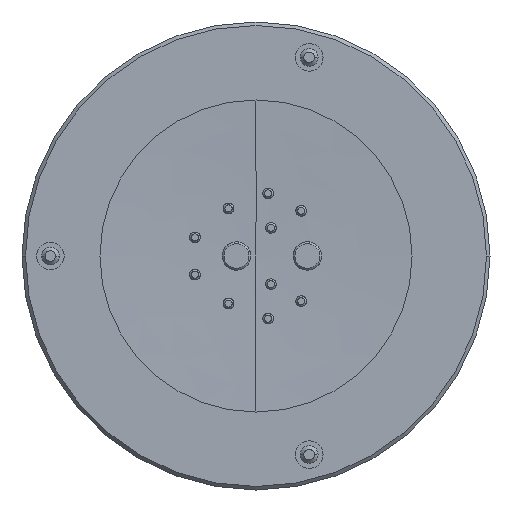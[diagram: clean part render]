
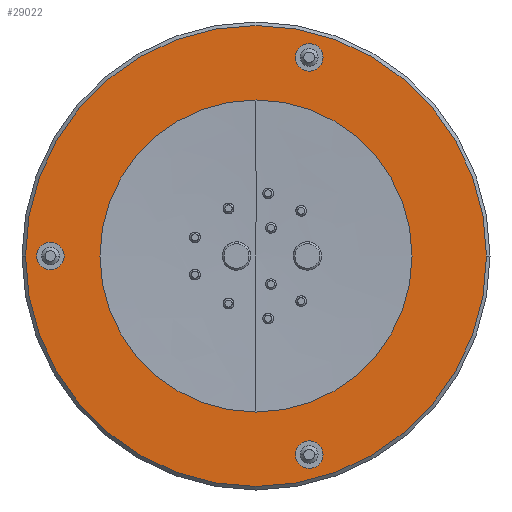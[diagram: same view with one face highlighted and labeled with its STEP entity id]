
A CAD part, left-side view. The second image highlights one B-rep face of the part: STEP entity #29022.
In plain terms, the highlighted planar face has unit normal (-1, 0, 0).
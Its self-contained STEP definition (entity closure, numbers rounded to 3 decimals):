
#6840=CARTESIAN_POINT('',(-12.5,0.,0.));
#6841=DIRECTION('',(1.,0.,0.));
#6842=DIRECTION('',(0.,1.,0.));
#6843=AXIS2_PLACEMENT_3D('',#6840,#6841,#6842);
#6845=CARTESIAN_POINT('',(-12.5,0.,0.));
#6846=DIRECTION('',(1.,0.,0.));
#6847=DIRECTION('',(0.,0.,1.));
#6848=AXIS2_PLACEMENT_3D('',#6845,#6846,#6847);
#6850=CARTESIAN_POINT('',(-12.5,0.,0.));
#6851=DIRECTION('',(1.,0.,0.));
#6852=DIRECTION('',(0.,-1.,0.));
#6853=AXIS2_PLACEMENT_3D('',#6850,#6851,#6852);
#6855=CARTESIAN_POINT('',(-12.5,0.,0.));
#6856=DIRECTION('',(1.,0.,0.));
#6857=DIRECTION('',(0.,0.,-1.));
#6858=AXIS2_PLACEMENT_3D('',#6855,#6856,#6857);
#6860=CARTESIAN_POINT('',(-12.5,-1.501,5.602));
#6861=DIRECTION('',(-1.,0.,0.));
#6862=DIRECTION('',(0.,-1.,0.));
#6863=AXIS2_PLACEMENT_3D('',#6860,#6861,#6862);
#6865=CARTESIAN_POINT('',(-12.5,-1.501,5.602));
#6866=DIRECTION('',(-1.,0.,0.));
#6867=DIRECTION('',(0.,1.,0.));
#6868=AXIS2_PLACEMENT_3D('',#6865,#6866,#6867);
#6870=CARTESIAN_POINT('',(-12.5,-1.501,-5.602));
#6871=DIRECTION('',(-1.,0.,0.));
#6872=DIRECTION('',(0.,-1.,0.));
#6873=AXIS2_PLACEMENT_3D('',#6870,#6871,#6872);
#6875=CARTESIAN_POINT('',(-12.5,-1.501,-5.602));
#6876=DIRECTION('',(-1.,0.,0.));
#6877=DIRECTION('',(0.,1.,0.));
#6878=AXIS2_PLACEMENT_3D('',#6875,#6876,#6877);
#6880=CARTESIAN_POINT('',(-12.5,5.8,0.));
#6881=DIRECTION('',(-1.,0.,0.));
#6882=DIRECTION('',(0.,-1.,0.));
#6883=AXIS2_PLACEMENT_3D('',#6880,#6881,#6882);
#6885=CARTESIAN_POINT('',(-12.5,5.8,0.));
#6886=DIRECTION('',(-1.,0.,0.));
#6887=DIRECTION('',(0.,1.,0.));
#6888=AXIS2_PLACEMENT_3D('',#6885,#6886,#6887);
#6890=CARTESIAN_POINT('',(-12.5,0.,0.));
#6891=DIRECTION('',(-1.,0.,0.));
#6892=DIRECTION('',(0.,-1.,0.));
#6893=AXIS2_PLACEMENT_3D('',#6890,#6891,#6892);
#6895=CARTESIAN_POINT('',(-12.5,0.,0.));
#6896=DIRECTION('',(-1.,0.,0.));
#6897=DIRECTION('',(0.,1.,0.));
#6898=AXIS2_PLACEMENT_3D('',#6895,#6896,#6897);
#10828=CARTESIAN_POINT('',(-12.5,0.,6.5));
#10829=CARTESIAN_POINT('',(-12.5,-6.5,0.));
#10830=VERTEX_POINT('',#10828);
#10831=VERTEX_POINT('',#10829);
#10832=CARTESIAN_POINT('',(-12.5,6.5,0.));
#10833=VERTEX_POINT('',#10832);
#10834=CARTESIAN_POINT('',(-12.5,0.,-6.5));
#10835=VERTEX_POINT('',#10834);
#10836=CARTESIAN_POINT('',(-12.5,-1.891,5.602));
#10837=CARTESIAN_POINT('',(-12.5,-1.111,5.602));
#10838=VERTEX_POINT('',#10836);
#10839=VERTEX_POINT('',#10837);
#10840=CARTESIAN_POINT('',(-12.5,-1.891,-5.602));
#10841=CARTESIAN_POINT('',(-12.5,-1.111,-5.602));
#10842=VERTEX_POINT('',#10840);
#10843=VERTEX_POINT('',#10841);
#10844=CARTESIAN_POINT('',(-12.5,5.41,0.));
#10845=CARTESIAN_POINT('',(-12.5,6.19,0.));
#10846=VERTEX_POINT('',#10844);
#10847=VERTEX_POINT('',#10845);
#10848=CARTESIAN_POINT('',(-12.5,-4.4,0.));
#10849=CARTESIAN_POINT('',(-12.5,4.4,0.));
#10850=VERTEX_POINT('',#10848);
#10851=VERTEX_POINT('',#10849);
#28985=CARTESIAN_POINT('',(-12.5,0.,0.));
#28986=DIRECTION('',(1.,0.,0.));
#28987=DIRECTION('',(0.,-1.,0.));
#28988=AXIS2_PLACEMENT_3D('',#28985,#28986,#28987);
#28989=PLANE('',#28988);
#28990=ORIENTED_EDGE('',*,*,#28967,.T.);
#28991=ORIENTED_EDGE('',*,*,#28965,.T.);
#28993=ORIENTED_EDGE('',*,*,#28992,.T.);
#28995=ORIENTED_EDGE('',*,*,#28994,.T.);
#28996=EDGE_LOOP('',(#28990,#28991,#28993,#28995));
#28997=FACE_OUTER_BOUND('',#28996,.F.);
#28999=ORIENTED_EDGE('',*,*,#28998,.T.);
#29001=ORIENTED_EDGE('',*,*,#29000,.T.);
#29002=EDGE_LOOP('',(#28999,#29001));
#29003=FACE_BOUND('',#29002,.F.);
#29005=ORIENTED_EDGE('',*,*,#29004,.T.);
#29007=ORIENTED_EDGE('',*,*,#29006,.T.);
#29008=EDGE_LOOP('',(#29005,#29007));
#29009=FACE_BOUND('',#29008,.F.);
#29011=ORIENTED_EDGE('',*,*,#29010,.T.);
#29013=ORIENTED_EDGE('',*,*,#29012,.T.);
#29014=EDGE_LOOP('',(#29011,#29013));
#29015=FACE_BOUND('',#29014,.F.);
#29017=ORIENTED_EDGE('',*,*,#29016,.T.);
#29019=ORIENTED_EDGE('',*,*,#29018,.T.);
#29020=EDGE_LOOP('',(#29017,#29019));
#29021=FACE_BOUND('',#29020,.F.);
#6844=CIRCLE('',#6843,6.5);
#6849=CIRCLE('',#6848,6.5);
#6854=CIRCLE('',#6853,6.5);
#6859=CIRCLE('',#6858,6.5);
#6864=CIRCLE('',#6863,0.39);
#6869=CIRCLE('',#6868,0.39);
#6874=CIRCLE('',#6873,0.39);
#6879=CIRCLE('',#6878,0.39);
#6884=CIRCLE('',#6883,0.39);
#6889=CIRCLE('',#6888,0.39);
#6894=CIRCLE('',#6893,4.4);
#6899=CIRCLE('',#6898,4.4);
#28965=EDGE_CURVE('',#10830,#10831,#6849,.T.);
#28967=EDGE_CURVE('',#10833,#10830,#6844,.T.);
#28992=EDGE_CURVE('',#10831,#10835,#6854,.T.);
#28994=EDGE_CURVE('',#10835,#10833,#6859,.T.);
#28998=EDGE_CURVE('',#10838,#10839,#6864,.T.);
#29000=EDGE_CURVE('',#10839,#10838,#6869,.T.);
#29004=EDGE_CURVE('',#10842,#10843,#6874,.T.);
#29006=EDGE_CURVE('',#10843,#10842,#6879,.T.);
#29010=EDGE_CURVE('',#10846,#10847,#6884,.T.);
#29012=EDGE_CURVE('',#10847,#10846,#6889,.T.);
#29016=EDGE_CURVE('',#10850,#10851,#6894,.T.);
#29018=EDGE_CURVE('',#10851,#10850,#6899,.T.);
#29022=ADVANCED_FACE('',(#28997,#29003,#29009,#29015,#29021),#28989,.F.);
